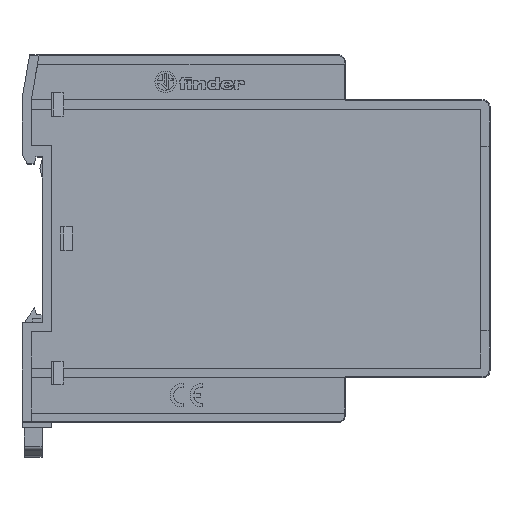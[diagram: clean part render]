
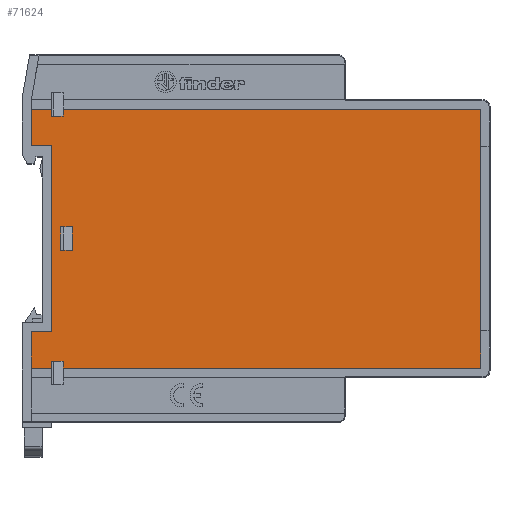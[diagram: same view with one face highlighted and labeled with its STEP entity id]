
A CAD part, top view. The second image highlights one B-rep face of the part: STEP entity #71624.
In plain terms, the highlighted planar face has unit normal (0, 0, 1).
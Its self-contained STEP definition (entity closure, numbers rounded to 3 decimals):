
#18084=ORIENTED_EDGE('',*,*,#29747,.F.);
#18085=ORIENTED_EDGE('',*,*,#29748,.T.);
#18086=ORIENTED_EDGE('',*,*,#29749,.F.);
#18087=ORIENTED_EDGE('',*,*,#29750,.T.);
#18088=ORIENTED_EDGE('',*,*,#29751,.F.);
#18089=ORIENTED_EDGE('',*,*,#29752,.T.);
#18090=ORIENTED_EDGE('',*,*,#29753,.F.);
#18091=ORIENTED_EDGE('',*,*,#29754,.T.);
#18092=ORIENTED_EDGE('',*,*,#29755,.F.);
#18093=ORIENTED_EDGE('',*,*,#29756,.T.);
#18094=ORIENTED_EDGE('',*,*,#29757,.F.);
#18095=ORIENTED_EDGE('',*,*,#29741,.T.);
#18096=ORIENTED_EDGE('',*,*,#29739,.T.);
#18097=ORIENTED_EDGE('',*,*,#29746,.T.);
#18098=ORIENTED_EDGE('',*,*,#29758,.F.);
#18099=ORIENTED_EDGE('',*,*,#29759,.F.);
#18100=ORIENTED_EDGE('',*,*,#29760,.T.);
#18101=ORIENTED_EDGE('',*,*,#29761,.F.);
#18102=ORIENTED_EDGE('',*,*,#29762,.F.);
#18103=ORIENTED_EDGE('',*,*,#29763,.F.);
#29739=EDGE_CURVE('',#38471,#38470,#48381,.T.);
#29741=EDGE_CURVE('',#38472,#38471,#48383,.T.);
#29746=EDGE_CURVE('',#38470,#38475,#48388,.T.);
#29747=EDGE_CURVE('',#38476,#38477,#48389,.T.);
#29748=EDGE_CURVE('',#38476,#38478,#48390,.T.);
#29749=EDGE_CURVE('',#38479,#38478,#48391,.T.);
#29750=EDGE_CURVE('',#38479,#38480,#48392,.T.);
#29751=EDGE_CURVE('',#38481,#38480,#48393,.T.);
#29752=EDGE_CURVE('',#38481,#38482,#48394,.T.);
#29753=EDGE_CURVE('',#38483,#38482,#48395,.T.);
#29754=EDGE_CURVE('',#38483,#38484,#48396,.T.);
#29755=EDGE_CURVE('',#38485,#38484,#48397,.T.);
#29756=EDGE_CURVE('',#38485,#38486,#48398,.T.);
#29757=EDGE_CURVE('',#38472,#38486,#48399,.T.);
#29758=EDGE_CURVE('',#38487,#38475,#48400,.T.);
#29759=EDGE_CURVE('',#38477,#38487,#48401,.T.);
#29760=EDGE_CURVE('',#38488,#38489,#48402,.T.);
#29761=EDGE_CURVE('',#38490,#38489,#48403,.T.);
#29762=EDGE_CURVE('',#38491,#38490,#48404,.T.);
#29763=EDGE_CURVE('',#38488,#38491,#48405,.T.);
#38470=VERTEX_POINT('',#117638);
#38471=VERTEX_POINT('',#117640);
#38472=VERTEX_POINT('',#117644);
#38475=VERTEX_POINT('',#117652);
#38476=VERTEX_POINT('',#117656);
#38477=VERTEX_POINT('',#117657);
#38478=VERTEX_POINT('',#117659);
#38479=VERTEX_POINT('',#117661);
#38480=VERTEX_POINT('',#117663);
#38481=VERTEX_POINT('',#117665);
#38482=VERTEX_POINT('',#117667);
#38483=VERTEX_POINT('',#117669);
#38484=VERTEX_POINT('',#117671);
#38485=VERTEX_POINT('',#117673);
#38486=VERTEX_POINT('',#117675);
#38487=VERTEX_POINT('',#117678);
#38488=VERTEX_POINT('',#117681);
#38489=VERTEX_POINT('',#117682);
#38490=VERTEX_POINT('',#117684);
#38491=VERTEX_POINT('',#117686);
#48381=LINE('',#117639,#58432);
#48383=LINE('',#117643,#58434);
#48388=LINE('',#117653,#58439);
#48389=LINE('',#117655,#58440);
#48390=LINE('',#117658,#58441);
#48391=LINE('',#117660,#58442);
#48392=LINE('',#117662,#58443);
#48393=LINE('',#117664,#58444);
#48394=LINE('',#117666,#58445);
#48395=LINE('',#117668,#58446);
#48396=LINE('',#117670,#58447);
#48397=LINE('',#117672,#58448);
#48398=LINE('',#117674,#58449);
#48399=LINE('',#117676,#58450);
#48400=LINE('',#117677,#58451);
#48401=LINE('',#117679,#58452);
#48402=LINE('',#117680,#58453);
#48403=LINE('',#117683,#58454);
#48404=LINE('',#117685,#58455);
#48405=LINE('',#117687,#58456);
#58432=VECTOR('',#94289,1000.);
#58434=VECTOR('',#94293,1000.);
#58439=VECTOR('',#94300,1000.);
#58440=VECTOR('',#94303,1000.);
#58441=VECTOR('',#94304,1000.);
#58442=VECTOR('',#94305,1000.);
#58443=VECTOR('',#94306,1000.);
#58444=VECTOR('',#94307,1000.);
#58445=VECTOR('',#94308,1000.);
#58446=VECTOR('',#94309,1000.);
#58447=VECTOR('',#94310,1000.);
#58448=VECTOR('',#94311,1000.);
#58449=VECTOR('',#94312,1000.);
#58450=VECTOR('',#94313,1000.);
#58451=VECTOR('',#94314,1000.);
#58452=VECTOR('',#94315,1000.);
#58453=VECTOR('',#94316,1000.);
#58454=VECTOR('',#94317,1000.);
#58455=VECTOR('',#94318,1000.);
#58456=VECTOR('',#94319,1000.);
#62629=EDGE_LOOP('',(#18084,#18085,#18086,#18087,#18088,#18089,#18090,#18091,
#18092,#18093,#18094,#18095,#18096,#18097,#18098,#18099));
#62630=EDGE_LOOP('',(#18100,#18101,#18102,#18103));
#65868=FACE_BOUND('',#62629,.T.);
#65869=FACE_BOUND('',#62630,.T.);
#68624=PLANE('',#77566);
#71624=ADVANCED_FACE('',(#65868,#65869),#68624,.T.);
#77566=AXIS2_PLACEMENT_3D('',#117654,#94301,#94302);
#94289=DIRECTION('',(0.,1.,0.));
#94293=DIRECTION('',(1.,0.,0.));
#94300=DIRECTION('',(-1.,0.,0.));
#94301=DIRECTION('',(0.,0.,1.));
#94302=DIRECTION('',(1.,0.,0.));
#94303=DIRECTION('',(0.,-1.,0.));
#94304=DIRECTION('',(-1.,0.,0.));
#94305=DIRECTION('',(0.,1.,0.));
#94306=DIRECTION('',(1.,0.,0.));
#94307=DIRECTION('',(0.,1.,0.));
#94308=DIRECTION('',(-1.,0.,0.));
#94309=DIRECTION('',(0.,1.,0.));
#94310=DIRECTION('',(1.,0.,0.));
#94311=DIRECTION('',(0.,-1.,0.));
#94312=DIRECTION('',(1.,0.,0.));
#94313=DIRECTION('',(0.,1.,0.));
#94314=DIRECTION('',(0.,1.,0.));
#94315=DIRECTION('',(1.,0.,0.));
#94316=DIRECTION('',(1.,0.,0.));
#94317=DIRECTION('',(0.,1.,0.));
#94318=DIRECTION('',(1.,0.,0.));
#94319=DIRECTION('',(0.,-1.,0.));
#117638=CARTESIAN_POINT('',(48.,27.75,22.5));
#117639=CARTESIAN_POINT('',(48.,-27.75,22.5));
#117640=CARTESIAN_POINT('',(48.,-27.75,22.5));
#117643=CARTESIAN_POINT('',(-41.5,-27.75,22.5));
#117644=CARTESIAN_POINT('',(-41.5,-27.75,22.5));
#117652=CARTESIAN_POINT('',(-41.5,27.75,22.5));
#117653=CARTESIAN_POINT('',(48.,27.75,22.5));
#117654=CARTESIAN_POINT('',(-50.188,28.787,22.5));
#117655=CARTESIAN_POINT('',(-44.,27.75,22.5));
#117656=CARTESIAN_POINT('',(-44.,27.75,22.5));
#117657=CARTESIAN_POINT('',(-44.,26.25,22.5));
#117658=CARTESIAN_POINT('',(-43.243,27.75,22.5));
#117659=CARTESIAN_POINT('',(-48.3,27.75,22.5));
#117660=CARTESIAN_POINT('',(-48.3,20.,22.5));
#117661=CARTESIAN_POINT('',(-48.3,20.,22.5));
#117662=CARTESIAN_POINT('',(-48.3,20.,22.5));
#117663=CARTESIAN_POINT('',(-44.,20.,22.5));
#117664=CARTESIAN_POINT('',(-44.,-20.,22.5));
#117665=CARTESIAN_POINT('',(-44.,-20.,22.5));
#117666=CARTESIAN_POINT('',(-44.,-20.,22.5));
#117667=CARTESIAN_POINT('',(-48.3,-20.,22.5));
#117668=CARTESIAN_POINT('',(-48.3,-27.75,22.5));
#117669=CARTESIAN_POINT('',(-48.3,-27.75,22.5));
#117670=CARTESIAN_POINT('',(-48.3,-27.75,22.5));
#117671=CARTESIAN_POINT('',(-44.,-27.75,22.5));
#117672=CARTESIAN_POINT('',(-44.,-26.25,22.5));
#117673=CARTESIAN_POINT('',(-44.,-26.25,22.5));
#117674=CARTESIAN_POINT('',(-44.,-26.25,22.5));
#117675=CARTESIAN_POINT('',(-41.5,-26.25,22.5));
#117676=CARTESIAN_POINT('',(-41.5,-27.75,22.5));
#117677=CARTESIAN_POINT('',(-41.5,26.25,22.5));
#117678=CARTESIAN_POINT('',(-41.5,26.25,22.5));
#117679=CARTESIAN_POINT('',(-44.,26.25,22.5));
#117680=CARTESIAN_POINT('',(-42.,2.5,22.5));
#117681=CARTESIAN_POINT('',(-42.,2.5,22.5));
#117682=CARTESIAN_POINT('',(-39.5,2.5,22.5));
#117683=CARTESIAN_POINT('',(-39.5,-2.5,22.5));
#117684=CARTESIAN_POINT('',(-39.5,-2.5,22.5));
#117685=CARTESIAN_POINT('',(-42.,-2.5,22.5));
#117686=CARTESIAN_POINT('',(-42.,-2.5,22.5));
#117687=CARTESIAN_POINT('',(-42.,2.5,22.5));
